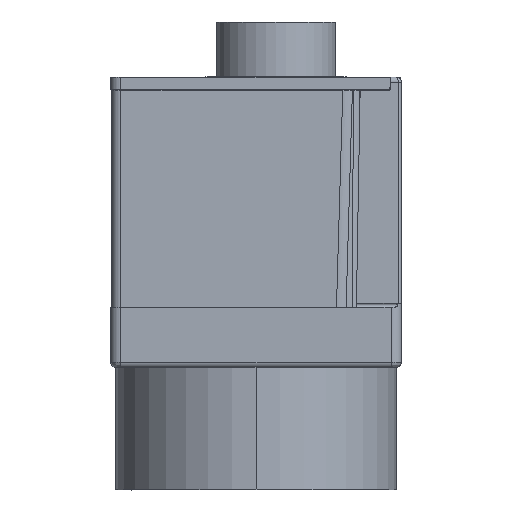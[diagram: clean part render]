
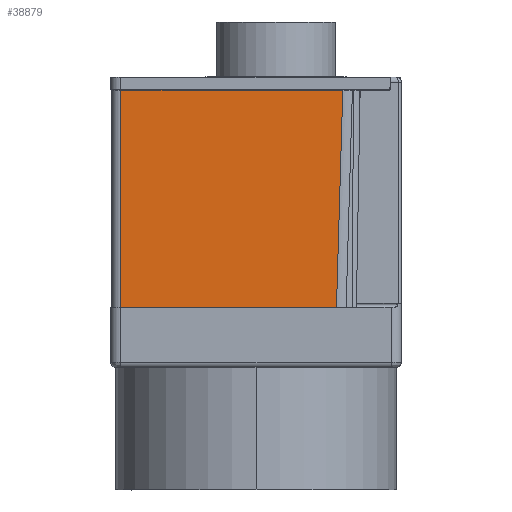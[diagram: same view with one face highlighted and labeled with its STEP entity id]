
A CAD part, left-side view. The second image highlights one B-rep face of the part: STEP entity #38879.
In plain terms, the highlighted planar face has unit normal (-1, 0, 0).
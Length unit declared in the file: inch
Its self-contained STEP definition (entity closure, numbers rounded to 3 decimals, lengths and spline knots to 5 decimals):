
#37638=DIRECTION('',(0.,-1.,0.));
#37639=VECTOR('',#37638,0.84783);
#37640=CARTESIAN_POINT('',(-0.56693,0.5315,0.));
#37641=LINE('',#37640,#37639);
#37904=DIRECTION('',(0.,0.,-1.));
#37905=VECTOR('',#37904,0.85433);
#37906=CARTESIAN_POINT('',(-0.56693,0.5315,
0.85433));
#37907=LINE('',#37906,#37905);
#37908=DIRECTION('',(0.,0.029,-1.));
#37909=VECTOR('',#37908,0.85469);
#37910=CARTESIAN_POINT('',(-0.56693,-0.34119,
0.85433));
#37911=LINE('',#37910,#37909);
#37912=DIRECTION('',(0.,-1.,0.));
#37913=VECTOR('',#37912,0.87269);
#37914=CARTESIAN_POINT('',(-0.56693,0.5315,
0.85433));
#37915=LINE('',#37914,#37913);
#37916=CARTESIAN_POINT('',(-0.56693,-0.34119,
0.85433));
#38076=VERTEX_POINT('',#37916);
#38077=CARTESIAN_POINT('',(-0.56693,0.5315,
0.85433));
#38078=VERTEX_POINT('',#38077);
#38113=CARTESIAN_POINT('',(-0.56693,0.5315,0.));
#38114=VERTEX_POINT('',#38113);
#38115=CARTESIAN_POINT('',(-0.56693,-0.31634,0.));
#38116=VERTEX_POINT('',#38115);
#38867=CARTESIAN_POINT('',(-0.56693,0.56693,0.));
#38868=DIRECTION('',(-1.,0.,0.));
#38869=DIRECTION('',(0.,-1.,0.));
#38870=AXIS2_PLACEMENT_3D('',#38867,#38868,#38869);
#38871=PLANE('',#38870);
#38873=ORIENTED_EDGE('',*,*,#38872,.T.);
#38874=ORIENTED_EDGE('',*,*,#38453,.F.);
#38875=ORIENTED_EDGE('',*,*,#38862,.F.);
#38876=ORIENTED_EDGE('',*,*,#38379,.T.);
#38877=EDGE_LOOP('',(#38873,#38874,#38875,#38876));
#38878=FACE_OUTER_BOUND('',#38877,.F.);
#38879=ADVANCED_FACE('',(#38878),#38871,.T.);
#38379=EDGE_CURVE('',#38078,#38076,#37915,.T.);
#38453=EDGE_CURVE('',#38114,#38116,#37641,.T.);
#38862=EDGE_CURVE('',#38078,#38114,#37907,.T.);
#38872=EDGE_CURVE('',#38076,#38116,#37911,.T.);
